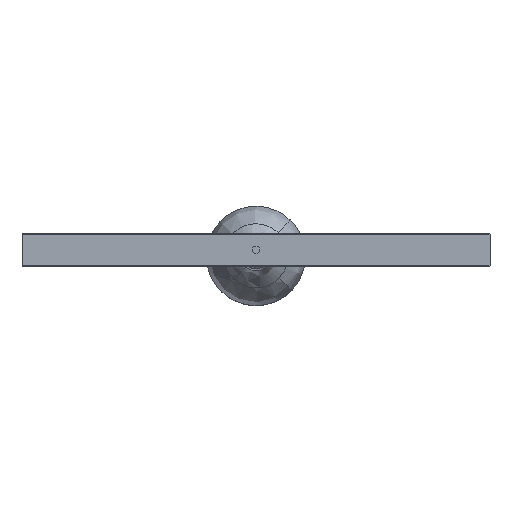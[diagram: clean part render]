
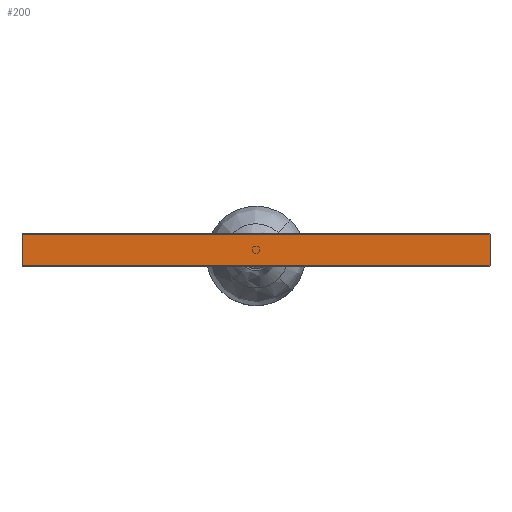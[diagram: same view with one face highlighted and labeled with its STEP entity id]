
A CAD part, top view. The second image highlights one B-rep face of the part: STEP entity #200.
In plain terms, the highlighted planar face has unit normal (0, 0, 1).
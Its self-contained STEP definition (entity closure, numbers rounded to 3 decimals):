
#66=B_SPLINE_CURVE_WITH_KNOTS('',1,(#3246,#3247),.UNSPECIFIED.,.F.,.F.,
(2,2),(0.,160.06),.UNSPECIFIED.);
#68=B_SPLINE_CURVE_WITH_KNOTS('',1,(#3250,#3251),.UNSPECIFIED.,.F.,.F.,
(2,2),(-47.603,-36.917),.UNSPECIFIED.);
#69=B_SPLINE_CURVE_WITH_KNOTS('',1,(#3252,#3253),.UNSPECIFIED.,.F.,.F.,
(2,2),(0.,160.06),.UNSPECIFIED.);
#70=B_SPLINE_CURVE_WITH_KNOTS('',1,(#3254,#3255),.UNSPECIFIED.,.F.,.F.,
(2,2),(-47.603,-36.917),.UNSPECIFIED.);
#200=ADVANCED_FACE('',(#288),#1421,.T.);
#288=FACE_OUTER_BOUND('',#387,.T.);
#387=EDGE_LOOP('',(#735,#736,#737,#738));
#735=ORIENTED_EDGE('',*,*,#975,.T.);
#736=ORIENTED_EDGE('',*,*,#976,.T.);
#737=ORIENTED_EDGE('',*,*,#977,.F.);
#738=ORIENTED_EDGE('',*,*,#973,.F.);
#973=EDGE_CURVE('',#1382,#1383,#66,.T.);
#975=EDGE_CURVE('',#1382,#1384,#68,.T.);
#976=EDGE_CURVE('',#1384,#1385,#69,.T.);
#977=EDGE_CURVE('',#1383,#1385,#70,.T.);
#1382=VERTEX_POINT('',#3224);
#1383=VERTEX_POINT('',#3225);
#1384=VERTEX_POINT('',#3226);
#1385=VERTEX_POINT('',#3227);
#1421=PLANE('',#1710);
#1710=AXIS2_PLACEMENT_3D('',#3212,#2009,$);
#2009=DIRECTION('',(0.,0.,1.));
#3212=CARTESIAN_POINT('',(-80.055,5.343,0.));
#3224=CARTESIAN_POINT('',(-80.055,5.343,0.));
#3225=CARTESIAN_POINT('',(80.055,5.343,0.));
#3226=CARTESIAN_POINT('',(-80.055,-5.343,0.));
#3227=CARTESIAN_POINT('',(80.055,-5.343,0.));
#3246=CARTESIAN_POINT('',(-80.055,5.343,0.));
#3247=CARTESIAN_POINT('',(80.055,5.343,0.));
#3250=CARTESIAN_POINT('',(-80.055,5.343,0.));
#3251=CARTESIAN_POINT('',(-80.055,-5.343,0.));
#3252=CARTESIAN_POINT('',(-80.055,-5.343,0.));
#3253=CARTESIAN_POINT('',(80.055,-5.343,0.));
#3254=CARTESIAN_POINT('',(80.055,5.343,0.));
#3255=CARTESIAN_POINT('',(80.055,-5.343,0.));
